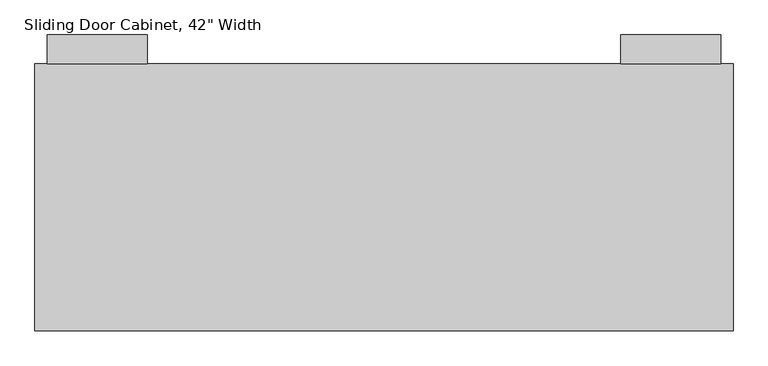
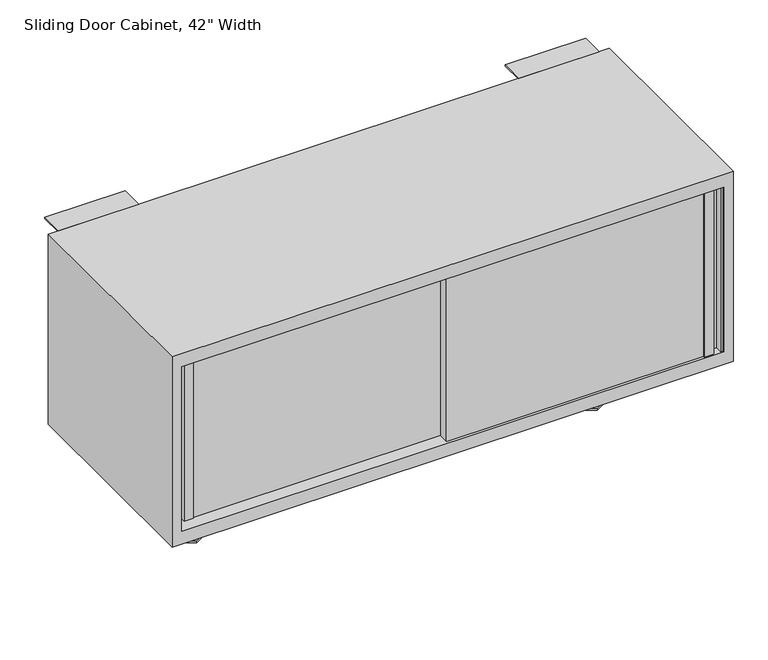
"""IFC4 building model written with IfcOpenShell, lengths in millimetres: furniture geometry."""

from ifc_helpers import new_model, si_unit, point, frame, frame_2d, origin, origin_with_axes, place, context, project, spatial, polyline, circle_curve, trimmed, segment, composite_curve, outline, extrude, faceted_brep, source, transform, mapped, element, save


def furniture_d19da1b5(model_context):
    return source(origin(), model_context, "Body", "SolidModel", [
        extrude(outline(composite_curve([segment(trimmed(circle_curve(frame_2d((-609.6, -176.6800781)), 3.9782717), [point((-609.6, -172.7018065))], [point((-609.6, -180.6583498))], False, "CARTESIAN"), True, "CONTINUOUS"), segment(trimmed(circle_curve(frame_2d((-609.6, -176.6800781)), 3.9782717), [point((-609.6, -180.6583498))], [point((-609.6, -172.7018065))], False, "CARTESIAN"), True, "CONTINUOUS")], self_intersect=False)), frame((0.0, 0.0, 3.794115), z_axis=(0.0, 0.0, 1.0), x_axis=(1.0, 0.0, 0.0)), (0.0, 0.0, 1.0), 26.230875),
        extrude(outline(composite_curve([segment(trimmed(circle_curve(frame_2d((149.352, -176.6800781)), 3.9782717), [point((149.352, -172.7018065))], [point((149.352, -180.6583498))], False, "CARTESIAN"), True, "CONTINUOUS"), segment(trimmed(circle_curve(frame_2d((149.352, -176.6800781)), 3.9782717), [point((149.352, -180.6583498))], [point((149.352, -172.7018065))], False, "CARTESIAN"), True, "CONTINUOUS")], self_intersect=False)), frame((0.0, 0.0, 3.794115), z_axis=(0.0, 0.0, 1.0), x_axis=(1.0, 0.0, 0.0)), (0.0, 0.0, 1.0), 26.230875),
        extrude(outline(polyline([(131.8779143, -166.5914101), (149.352, -156.502742), (166.8260857, -166.5914101), (166.8260857, -186.7687462), (149.352, -196.8574143), (131.8779143, -186.7687462), (131.8779143, -166.5914101)])), origin_with_axes(), (0.0, 0.0, 1.0), 3.794115),
        extrude(outline(polyline([(-627.0740857, -166.5914101), (-609.6, -156.502742), (-592.1259143, -166.5914101), (-592.1259143, -186.7687462), (-609.6, -196.8574143), (-627.0740857, -186.7687462), (-627.0740857, -166.5914101)])), origin_with_axes(), (0.0, 0.0, 1.0), 3.794115),
        extrude(outline(polyline([(-708.7275816, -354.8480781), (-708.7275816, -357.3480781), (-726.3275816, -357.3480781), (-726.3275816, -341.3098281), (-740.0275816, -341.3098281), (-740.0275816, -357.3480781), (-743.6275816, -357.3480781), (-743.6275816, -339.3098281), (-723.8275816, -339.3098281), (-723.8275816, -354.8480781), (-708.7275816, -354.8480781)])), frame((0.0, 0.0, 180.975), z_axis=(0.0, 0.0, 1.0), x_axis=(1.0, 0.0, 0.0)), (0.0, 0.0, 1.0), 330.2),
        extrude(outline(polyline([(248.5035816, -374.8080781), (263.6035816, -374.8080781), (263.6035816, -361.8080781), (283.4035816, -361.8080781), (283.4035816, -377.3080781), (279.8035816, -377.3080781), (279.8035816, -363.8080781), (266.1035816, -363.8080781), (266.1035816, -377.3080781), (248.5035816, -377.3080781), (248.5035816, -374.8080781)])), frame((0.0, 0.0, 180.975), z_axis=(0.0, 0.0, 1.0), x_axis=(1.0, 0.0, 0.0)), (0.0, 0.0, 1.0), 330.2),
        extrude(outline(polyline([(-239.0144184, -357.0080781), (263.6035816, -357.0080781), (263.6035816, -374.8080781), (-239.0144184, -374.8080781), (-239.0144184, -357.0080781)])), frame((0.0, 0.0, 180.975), z_axis=(0.0, 0.0, 1.0), x_axis=(1.0, 0.0, 0.0)), (0.0, 0.0, 1.0), 330.2),
        extrude(outline(polyline([(-723.8275816, -337.0480781), (-221.234, -337.0480781), (-221.234, -354.8480781), (-723.8275816, -354.8480781), (-723.8275816, -337.0480781)])), frame((0.0, 0.0, 180.975), z_axis=(0.0, 0.0, 1.0), x_axis=(1.0, 0.0, 0.0)), (0.0, 0.0, 1.0), 330.2),
        extrude(outline(polyline([(139.3444, -157.6300781), (159.3596, -157.6300781), (159.3596, -195.7300781), (139.3444, -195.7300781), (139.3444, -157.6300781)])), frame((0.0, 0.0, 30.02499), z_axis=(0.0, 0.0, 1.0), x_axis=(1.0, 0.0, 0.0)), (0.0, 0.0, 1.0), 125.55001),
        extrude(outline(polyline([(-619.6, -157.6300781), (-599.6, -157.6300781), (-599.6, -195.7300781), (-619.6, -195.7300781), (-619.6, -157.6300781)])), frame((0.0, 0.0, 30.02499), z_axis=(0.0, 0.0, 1.0), x_axis=(1.0, 0.0, 0.0)), (0.0, 0.0, 1.0), 125.55001),
        extrude(outline(polyline([(26.5199219, 508.77499), (26.5199219, 536.575), (70.8140505, 536.575), (70.8140505, 533.80049), (29.2199219, 533.80049), (29.2199219, 508.77499), (26.5199219, 508.77499)])), frame((130.276, 0.0, 0.0), z_axis=(1.0, 0.0, 0.0), x_axis=(0.0, 1.0, 0.0)), (0.0, 0.0, 1.0), 152.4),
        extrude(outline(polyline([(26.5199219, 536.575), (70.8140505, 536.575), (70.8140505, 533.80049), (29.2199219, 533.80049), (29.2199219, 508.77499), (26.5199219, 508.77499), (26.5199219, 536.575)])), frame((-742.9, 0.0, 0.0), z_axis=(1.0, 0.0, 0.0), x_axis=(0.0, 1.0, 0.0)), (0.0, 0.0, 1.0), 152.4),
        faceted_brep([(301.752, -379.8800781, 536.575), (301.752, 26.5199219, 536.575), (-762.0, 26.5199219, 536.575), (-762.0, -379.8800781, 536.575), (301.752, 26.5199219, 155.575), (301.752, -379.8800781, 155.575), (-762.0, -379.8800781, 155.575), (-762.0, 26.5199219, 155.575), (283.972, -379.8800781, 180.975), (283.972, -379.8800781, 511.175), (283.972, 1.1199219, 511.175), (283.972, 1.1199219, 180.975), (-744.22, -379.8800781, 180.975), (-744.22, -379.8800781, 511.175), (-744.22, 1.1199219, 180.975), (-744.22, 1.1199219, 511.175)], [[[0, 1, 2, 3]], [[4, 5, 6, 7]], [[8, 9, 10, 11]], [[0, 3, 6, 5], [8, 12, 13, 9]], [[1, 0, 5, 4]], [[2, 1, 4, 7]], [[6, 3, 2, 7]], [[13, 12, 14, 15]], [[12, 8, 11, 14]], [[14, 11, 10, 15]], [[9, 13, 15, 10]]]),
    ])


if __name__ == "__main__":
    model = new_model("IFC4")
    model_context = context("Model", 3, world=origin())
    ifc_project = project(units=[si_unit("LENGTHUNIT", "METRE", prefix="MILLI")], contexts=[model_context])
    site = spatial("IfcSite", under=ifc_project)
    building = spatial("IfcBuilding", under=site)
    placement = place(None, origin())
    furniture_shape = furniture_d19da1b5(model_context)
    element("IfcFurniture", 1, ObjectType="Furniture-Cabinet-Teknion-Altos_Landscape-R2015 : Sliding Door Cabinet, 42\" Width", at=placement, inside=building, context=model_context, shape_type="MappedRepresentation", body=[
        mapped(furniture_shape, transform((0.0, 0.0, 0.0), x_axis=(1.0, 0.0, 0.0), y_axis=(0.0, 1.0, 0.0), z_axis=(0.0, 0.0, 1.0))),
    ])
    save(model, "model.ifc")
